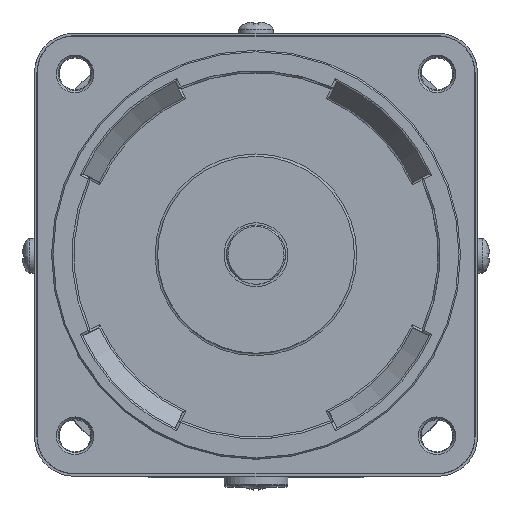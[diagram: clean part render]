
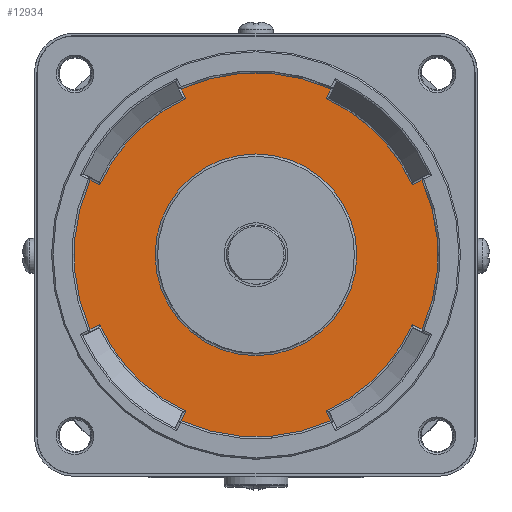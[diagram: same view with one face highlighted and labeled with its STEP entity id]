
A CAD part, top view. The second image highlights one B-rep face of the part: STEP entity #12934.
In plain terms, the highlighted planar face has unit normal (0, 0, 1).
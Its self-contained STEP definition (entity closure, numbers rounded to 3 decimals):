
#155 = CARTESIAN_POINT ( 'NONE',  ( -31.725, 14.242, -2. ) ) ;
#311 = ORIENTED_EDGE ( 'NONE', *, *, #7794, .T. ) ;
#427 = CARTESIAN_POINT ( 'NONE',  ( 33.73, 15.177, -2. ) ) ;
#434 = DIRECTION ( 'NONE',  ( 1., 0., 0. ) ) ;
#485 = DIRECTION ( 'NONE',  ( 0., 0., -1. ) ) ;
#491 = CARTESIAN_POINT ( 'NONE',  ( 0., 0., -2. ) ) ;
#510 = CARTESIAN_POINT ( 'NONE',  ( -14.338, 31.932, -2. ) ) ;
#519 = CIRCLE ( 'NONE', #14335, 34.775 ) ;
#557 = VERTEX_POINT ( 'NONE', #9815 ) ;
#648 = FACE_BOUND ( 'NONE', #6221, .T. ) ;
#727 = CIRCLE ( 'NONE', #9216, 20.5 ) ;
#834 = VERTEX_POINT ( 'NONE', #3112 ) ;
#900 = DIRECTION ( 'NONE',  ( -0.423, -0.906, 0. ) ) ;
#926 = CARTESIAN_POINT ( 'NONE',  ( 15.177, 33.73, -2. ) ) ;
#937 = CARTESIAN_POINT ( 'NONE',  ( 15.177, -33.73, -2. ) ) ;
#1084 = AXIS2_PLACEMENT_3D ( 'NONE', #2821, #12065, #1681 ) ;
#1526 = VECTOR ( 'NONE', #3536, 1000. ) ;
#1681 = DIRECTION ( 'NONE',  ( 1., 0., 0. ) ) ;
#1757 = CARTESIAN_POINT ( 'NONE',  ( -0.453, 0.211, -2. ) ) ;
#1820 = CIRCLE ( 'NONE', #4481, 34.775 ) ;
#1988 = CIRCLE ( 'NONE', #6351, 36.987 ) ;
#1999 = CARTESIAN_POINT ( 'NONE',  ( 31.725, -14.242, -2. ) ) ;
#2235 = VERTEX_POINT ( 'NONE', #155 ) ;
#2319 = VECTOR ( 'NONE', #5928, 1000. ) ;
#2406 = VERTEX_POINT ( 'NONE', #6382 ) ;
#2441 = EDGE_CURVE ( 'NONE', #10807, #3533, #4967, .T. ) ;
#2445 = EDGE_CURVE ( 'NONE', #7229, #2235, #11265, .T. ) ;
#2572 = DIRECTION ( 'NONE',  ( 0., 0., 1. ) ) ;
#2624 = CARTESIAN_POINT ( 'NONE',  ( 0., 0., -2. ) ) ;
#2821 = CARTESIAN_POINT ( 'NONE',  ( 0., 0., -2. ) ) ;
#2901 = CIRCLE ( 'NONE', #9200, 36.987 ) ;
#3026 = DIRECTION ( 'NONE',  ( 0.423, -0.906, 0. ) ) ;
#3098 = CARTESIAN_POINT ( 'NONE',  ( 33.73, -15.177, -2. ) ) ;
#3112 = CARTESIAN_POINT ( 'NONE',  ( -31.725, -14.242, -2. ) ) ;
#3144 = VERTEX_POINT ( 'NONE', #11835 ) ;
#3233 = EDGE_CURVE ( 'NONE', #10284, #834, #12901, .T. ) ;
#3412 = DIRECTION ( 'NONE',  ( 0., 0., 1. ) ) ;
#3458 = CARTESIAN_POINT ( 'NONE',  ( -0.211, -0.453, -2. ) ) ;
#3533 = VERTEX_POINT ( 'NONE', #8333 ) ;
#3536 = DIRECTION ( 'NONE',  ( -0.906, 0.423, 0. ) ) ;
#3632 = CARTESIAN_POINT ( 'NONE',  ( 0., 0., -2. ) ) ;
#3637 = EDGE_CURVE ( 'NONE', #557, #7229, #7590, .T. ) ;
#3653 = CARTESIAN_POINT ( 'NONE',  ( -31.932, -14.338, -2. ) ) ;
#3681 = ORIENTED_EDGE ( 'NONE', *, *, #2445, .T. ) ;
#3830 = DIRECTION ( 'NONE',  ( 1., 0., 0. ) ) ;
#3921 = DIRECTION ( 'NONE',  ( 0., 0., 1. ) ) ;
#4035 = EDGE_CURVE ( 'NONE', #834, #3144, #1820, .T. ) ;
#4048 = LINE ( 'NONE', #14273, #10611 ) ;
#4397 = VERTEX_POINT ( 'NONE', #12458 ) ;
#4481 = AXIS2_PLACEMENT_3D ( 'NONE', #14306, #8702, #5284 ) ;
#4582 = DIRECTION ( 'NONE',  ( 0.906, -0.423, 0. ) ) ;
#4794 = ORIENTED_EDGE ( 'NONE', *, *, #13945, .T. ) ;
#4967 = CIRCLE ( 'NONE', #7874, 34.775 ) ;
#5032 = EDGE_CURVE ( 'NONE', #3144, #10905, #11445, .T. ) ;
#5066 = CARTESIAN_POINT ( 'NONE',  ( -15.177, -33.73, -2. ) ) ;
#5073 = VECTOR ( 'NONE', #6381, 1000. ) ;
#5090 = CIRCLE ( 'NONE', #14770, 36.987 ) ;
#5229 = ORIENTED_EDGE ( 'NONE', *, *, #11260, .T. ) ;
#5284 = DIRECTION ( 'NONE',  ( 1., 0., 0. ) ) ;
#5355 = CARTESIAN_POINT ( 'NONE',  ( 14.338, -31.932, -2. ) ) ;
#5428 = LINE ( 'NONE', #14818, #7779 ) ;
#5500 = LINE ( 'NONE', #5355, #5820 ) ;
#5519 = ORIENTED_EDGE ( 'NONE', *, *, #14170, .T. ) ;
#5820 = VECTOR ( 'NONE', #11044, 1000. ) ;
#5849 = EDGE_CURVE ( 'NONE', #7190, #14274, #5428, .T. ) ;
#5928 = DIRECTION ( 'NONE',  ( 0.906, 0.423, 0. ) ) ;
#5930 = VERTEX_POINT ( 'NONE', #937 ) ;
#5955 = ORIENTED_EDGE ( 'NONE', *, *, #9109, .T. ) ;
#6221 = EDGE_LOOP ( 'NONE', ( #12919 ) ) ;
#6252 = VERTEX_POINT ( 'NONE', #427 ) ;
#6340 = CARTESIAN_POINT ( 'NONE',  ( -33.73, -15.177, -2. ) ) ;
#6349 = FACE_OUTER_BOUND ( 'NONE', #11682, .T. ) ;
#6351 = AXIS2_PLACEMENT_3D ( 'NONE', #14098, #2572, #434 ) ;
#6381 = DIRECTION ( 'NONE',  ( 0.423, 0.906, 0. ) ) ;
#6382 = CARTESIAN_POINT ( 'NONE',  ( -33.73, 15.177, -2. ) ) ;
#6825 = DIRECTION ( 'NONE',  ( 1., 0., 0. ) ) ;
#6965 = CARTESIAN_POINT ( 'NONE',  ( 0., 0., -2. ) ) ;
#7190 = VERTEX_POINT ( 'NONE', #1999 ) ;
#7211 = ORIENTED_EDGE ( 'NONE', *, *, #5032, .T. ) ;
#7229 = VERTEX_POINT ( 'NONE', #14188 ) ;
#7255 = DIRECTION ( 'NONE',  ( 1., 0., 0. ) ) ;
#7339 = PLANE ( 'NONE',  #14783 ) ;
#7421 = ORIENTED_EDGE ( 'NONE', *, *, #3233, .T. ) ;
#7439 = ORIENTED_EDGE ( 'NONE', *, *, #10698, .T. ) ;
#7451 = EDGE_CURVE ( 'NONE', #3533, #13435, #9723, .T. ) ;
#7590 = LINE ( 'NONE', #510, #10086 ) ;
#7779 = VECTOR ( 'NONE', #4582, 1000. ) ;
#7794 = EDGE_CURVE ( 'NONE', #14274, #6252, #2901, .T. ) ;
#7874 = AXIS2_PLACEMENT_3D ( 'NONE', #8588, #9800, #13208 ) ;
#8254 = DIRECTION ( 'NONE',  ( 1., 0., 0. ) ) ;
#8333 = CARTESIAN_POINT ( 'NONE',  ( 14.242, 31.725, -2. ) ) ;
#8588 = CARTESIAN_POINT ( 'NONE',  ( 0., 0., -2. ) ) ;
#8702 = DIRECTION ( 'NONE',  ( 0., 0., 1. ) ) ;
#8737 = EDGE_CURVE ( 'NONE', #10905, #5930, #14730, .T. ) ;
#9102 = DIRECTION ( 'NONE',  ( 0., 0., 1. ) ) ;
#9109 = EDGE_CURVE ( 'NONE', #6252, #10807, #4048, .T. ) ;
#9200 = AXIS2_PLACEMENT_3D ( 'NONE', #2624, #3921, #7255 ) ;
#9216 = AXIS2_PLACEMENT_3D ( 'NONE', #10884, #485, #14222 ) ;
#9337 = VECTOR ( 'NONE', #900, 1000. ) ;
#9506 = DIRECTION ( 'NONE',  ( -0.906, -0.423, 0. ) ) ;
#9604 = CARTESIAN_POINT ( 'NONE',  ( 0., 0., -2. ) ) ;
#9687 = DIRECTION ( 'NONE',  ( 1., 0., 0. ) ) ;
#9723 = LINE ( 'NONE', #1757, #5073 ) ;
#9800 = DIRECTION ( 'NONE',  ( 0., 0., 1. ) ) ;
#9815 = CARTESIAN_POINT ( 'NONE',  ( -15.177, 33.73, -2. ) ) ;
#10036 = EDGE_CURVE ( 'NONE', #2235, #2406, #14979, .T. ) ;
#10086 = VECTOR ( 'NONE', #3026, 1000. ) ;
#10141 = AXIS2_PLACEMENT_3D ( 'NONE', #9604, #14292, #3830 ) ;
#10240 = CARTESIAN_POINT ( 'NONE',  ( 0.453, -0.211, -2. ) ) ;
#10284 = VERTEX_POINT ( 'NONE', #6340 ) ;
#10611 = VECTOR ( 'NONE', #9506, 1000. ) ;
#10698 = EDGE_CURVE ( 'NONE', #2406, #10284, #5090, .T. ) ;
#10711 = ORIENTED_EDGE ( 'NONE', *, *, #3637, .T. ) ;
#10807 = VERTEX_POINT ( 'NONE', #14091 ) ;
#10839 = ORIENTED_EDGE ( 'NONE', *, *, #5849, .T. ) ;
#10884 = CARTESIAN_POINT ( 'NONE',  ( 0., 0., -2. ) ) ;
#10905 = VERTEX_POINT ( 'NONE', #5066 ) ;
#11044 = DIRECTION ( 'NONE',  ( -0.423, 0.906, 0. ) ) ;
#11186 = EDGE_CURVE ( 'NONE', #14406, #14406, #727, .T. ) ;
#11260 = EDGE_CURVE ( 'NONE', #5930, #4397, #5500, .T. ) ;
#11265 = CIRCLE ( 'NONE', #1084, 34.775 ) ;
#11445 = LINE ( 'NONE', #10240, #9337 ) ;
#11682 = EDGE_LOOP ( 'NONE', ( #10839, #311, #5955, #12663, #13455, #5519, #10711, #3681, #14232, #7439, #7421, #12034, #7211, #12587, #5229, #4794 ) ) ;
#11835 = CARTESIAN_POINT ( 'NONE',  ( -14.242, -31.725, -2. ) ) ;
#11954 = DIRECTION ( 'NONE',  ( 0., 0., 1. ) ) ;
#12034 = ORIENTED_EDGE ( 'NONE', *, *, #4035, .T. ) ;
#12055 = CARTESIAN_POINT ( 'NONE',  ( 20.5, 0., -2. ) ) ;
#12065 = DIRECTION ( 'NONE',  ( 0., 0., 1. ) ) ;
#12458 = CARTESIAN_POINT ( 'NONE',  ( 14.242, -31.725, -2. ) ) ;
#12587 = ORIENTED_EDGE ( 'NONE', *, *, #8737, .T. ) ;
#12663 = ORIENTED_EDGE ( 'NONE', *, *, #2441, .T. ) ;
#12901 = LINE ( 'NONE', #3653, #2319 ) ;
#12919 = ORIENTED_EDGE ( 'NONE', *, *, #11186, .T. ) ;
#12934 = ADVANCED_FACE ( 'NONE', ( #6349, #648 ), #7339, .T. ) ;
#13208 = DIRECTION ( 'NONE',  ( 1., 0., 0. ) ) ;
#13435 = VERTEX_POINT ( 'NONE', #926 ) ;
#13455 = ORIENTED_EDGE ( 'NONE', *, *, #7451, .T. ) ;
#13945 = EDGE_CURVE ( 'NONE', #4397, #7190, #519, .T. ) ;
#14091 = CARTESIAN_POINT ( 'NONE',  ( 31.725, 14.242, -2. ) ) ;
#14098 = CARTESIAN_POINT ( 'NONE',  ( 0., 0., -2. ) ) ;
#14170 = EDGE_CURVE ( 'NONE', #13435, #557, #1988, .T. ) ;
#14188 = CARTESIAN_POINT ( 'NONE',  ( -14.242, 31.725, -2. ) ) ;
#14222 = DIRECTION ( 'NONE',  ( 1., 0., 0. ) ) ;
#14232 = ORIENTED_EDGE ( 'NONE', *, *, #10036, .T. ) ;
#14273 = CARTESIAN_POINT ( 'NONE',  ( 31.932, 14.338, -2. ) ) ;
#14274 = VERTEX_POINT ( 'NONE', #3098 ) ;
#14292 = DIRECTION ( 'NONE',  ( 0., 0., 1. ) ) ;
#14306 = CARTESIAN_POINT ( 'NONE',  ( 0., 0., -2. ) ) ;
#14335 = AXIS2_PLACEMENT_3D ( 'NONE', #3632, #3412, #8254 ) ;
#14406 = VERTEX_POINT ( 'NONE', #12055 ) ;
#14730 = CIRCLE ( 'NONE', #10141, 36.987 ) ;
#14770 = AXIS2_PLACEMENT_3D ( 'NONE', #6965, #9102, #6825 ) ;
#14783 = AXIS2_PLACEMENT_3D ( 'NONE', #491, #11954, #9687 ) ;
#14818 = CARTESIAN_POINT ( 'NONE',  ( 0.211, 0.453, -2. ) ) ;
#14979 = LINE ( 'NONE', #3458, #1526 ) ;
